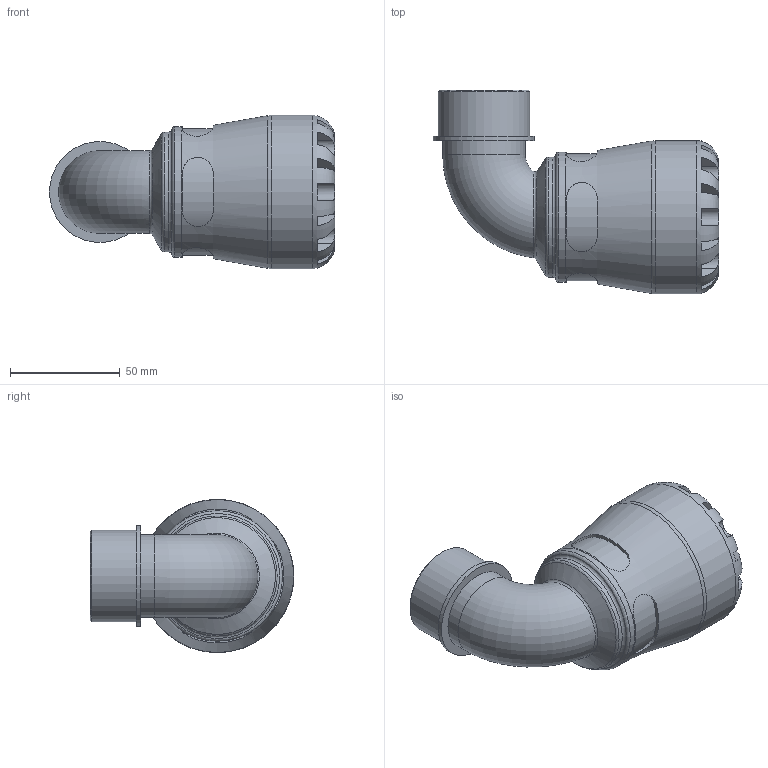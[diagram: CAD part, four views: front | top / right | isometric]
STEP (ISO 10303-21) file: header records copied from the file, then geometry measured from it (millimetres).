
FILE_DESCRIPTION(/* description */ ('PLASSON 90° ELBOW WITH THREADED MALE OFFTAKE 40X1.1/4" SERIES 1'),/* implementation_level */ '2;1');
FILE_NAME(/* name */ 'C:\Dropbox\KIMPROJECTS-Inventor\99-16-3568-Processing\1085\108500040013_198500040013.ipt.stp',/* time_stamp */ '2017-01-22T11:49:29+02:00',/* author */ ('KIM'),/* organization */ (''),/* preprocessor_version */ 'ST-DEVELOPER v15.6',/* originating_system */ 'Autodesk Inventor 2015',/* authorisation */ '');
FILE_SCHEMA (('AUTOMOTIVE_DESIGN { 1 0 10303 214 3 1 1 }'));
Length unit declared in the file: millimetre
Products named in the file (1): 108500040013_198500040013
Bounding box: 130.05 x 93 x 70 mm (x, y, z)
Volume: 199338.3 mm3; surface area: 48570.7 mm2
Topology: 1 solids, 1 shells, 110 faces, 269 edges, 167 vertices
Faces by surface type: plane 61, cylinder 37, torus 7, bspline 3, cone 2
Full cylindrical faces by diameter (mm): 29.337 x2, 37.719 x1, 40 x1, 41.91 x1, 46.101 x1, 54.6 x1, 59.5 x1, 70 x1
Entity records: 4335 total; most frequent: CARTESIAN_POINT 1795, ORIENTED_EDGE 488, DIRECTION 487, EDGE_CURVE 244, AXIS2_PLACEMENT_3D 203, VERTEX_POINT 161, EDGE_LOOP 137, STYLED_ITEM 111
